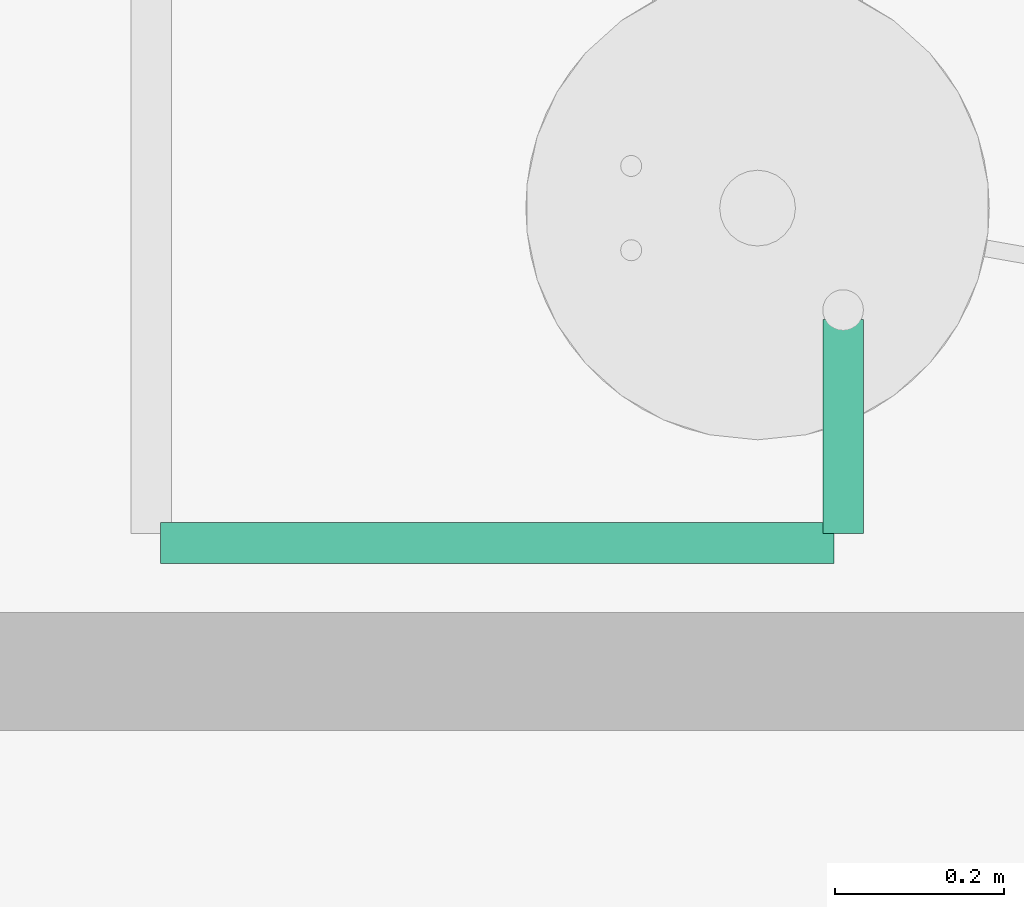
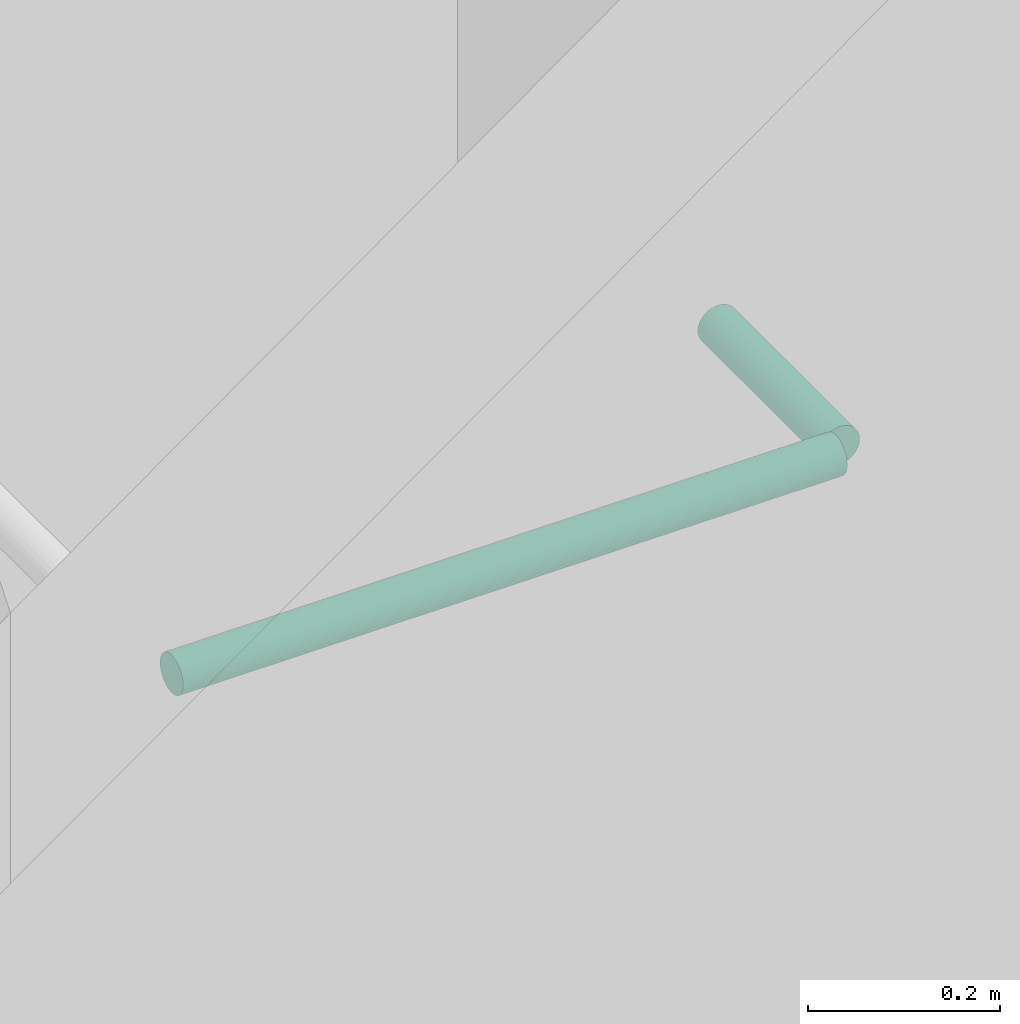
# One storey, part 43 of 71: 2 pipe segments.
"""IFC4 building model written with IfcOpenShell, lengths in centimetres."""

from ifc_helpers import new_model, entity, si_unit, converted_unit, derived_unit, direction, frame, origin, place, context, subcontext, project, spatial, arc, indexed_curve, outline, extrude, type_object, element, save


model = new_model("IFC4")

# Units and contexts
model_context = context("Model", 3, precision=0.001, world=origin(), true_north=direction((6.123233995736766e-17, 1.0)))
body_context = subcontext(model_context, "Body", "Model", "MODEL_VIEW")
ifc_project = project(units=[si_unit("LENGTHUNIT", "METRE", prefix="CENTI"), si_unit("AREAUNIT", "SQUARE_METRE"), si_unit("VOLUMEUNIT", "CUBIC_METRE"), derived_unit("THERMALTRANSMITTANCEUNIT", [(si_unit("MASSUNIT", "GRAM", prefix="KILO"), 1), (si_unit("THERMODYNAMICTEMPERATUREUNIT", "KELVIN"), -1), (si_unit("TIMEUNIT", "SECOND"), -3)]), converted_unit("PLANEANGLEUNIT", "DEGREE", entity("IfcPlaneAngleMeasure", 0.017453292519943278), si_unit("PLANEANGLEUNIT", "RADIAN"), dimensions=[0, 0, 0, 0, 0, 0, 0]), derived_unit("MASSDENSITYUNIT", [(si_unit("MASSUNIT", "GRAM", prefix="KILO"), 1), (si_unit("LENGTHUNIT", "METRE"), -3)]), derived_unit("VAPORPERMEABILITYUNIT", [(si_unit("LENGTHUNIT", "METRE"), -1), (si_unit("TIMEUNIT", "SECOND"), 1)]), derived_unit("USERDEFINED", [(si_unit("MASSUNIT", "GRAM", prefix="KILO"), 1), (si_unit("TIMEUNIT", "SECOND"), -3), (si_unit("LENGTHUNIT", "METRE"), 3), (si_unit("ELECTRICCURRENTUNIT", "AMPERE"), -2)]), derived_unit("SPECIFICHEATCAPACITYUNIT", [(si_unit("THERMODYNAMICTEMPERATUREUNIT", "KELVIN"), -1), (si_unit("LENGTHUNIT", "METRE"), 2), (si_unit("TIMEUNIT", "SECOND"), -2)]), derived_unit("THERMALCONDUCTANCEUNIT", [(si_unit("MASSUNIT", "GRAM", prefix="KILO"), 1), (si_unit("THERMODYNAMICTEMPERATUREUNIT", "KELVIN"), -1), (si_unit("TIMEUNIT", "SECOND"), -3), (si_unit("LENGTHUNIT", "METRE"), 1)]), si_unit("PRESSUREUNIT", "PASCAL"), derived_unit("MODULUSOFELASTICITYUNIT", [(si_unit("MASSUNIT", "GRAM", prefix="KILO"), 1), (si_unit("LENGTHUNIT", "METRE"), -1), (si_unit("TIMEUNIT", "SECOND"), -2)]), derived_unit("THERMALEXPANSIONCOEFFICIENTUNIT", [(si_unit("THERMODYNAMICTEMPERATUREUNIT", "KELVIN"), -1)])], contexts=[model_context])

# Site, building, storey
site_placement = place(None, origin())
site = spatial("IfcSite", under=ifc_project, at=site_placement, Name="Default", CompositionType="ELEMENT")
building_placement = place(site_placement, origin())
building = spatial("IfcBuilding", under=site, at=building_placement, Name="IDS Escape Game Building", CompositionType="ELEMENT")
storey_placement = place(building_placement, frame((0.0, 0.0, 1200.0)))
storey = spatial("IfcBuildingStorey", under=building, at=storey_placement, Name="03_Third Floor", CompositionType="ELEMENT", Elevation=1200.0)

# Pipe segments
pipe_segment_type = type_object("IfcPipeSegmentType", Name="Pipe Types:Piping Aluminum", PredefinedType="NOTDEFINED")
pipe_segment_1_placement = place(storey_placement, origin())
element("IfcPipeSegment", 1, at=pipe_segment_1_placement, inside=storey, type_object=pipe_segment_type, Name="Pipe Types:Piping Aluminum", ObjectType="Pipe Types:Piping Aluminum", PredefinedType="NOTDEFINED", context=body_context, shape_type="SweptSolid", body=[
    extrude(outline(indexed_curve([(2.4129999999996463, -2.165734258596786e-13), (1.7062486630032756, 1.7062486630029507), (4.331468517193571e-13, 2.4130000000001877), (-1.706248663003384, 1.706248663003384), (-2.413000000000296, -2.165734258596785e-13), (-1.706248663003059, -1.706248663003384), (4.3314685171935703e-13, -2.4129999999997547), (1.7062486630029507, -1.7062486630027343)], segments=[arc(1, 2, 3), arc(3, 4, 5), arc(5, 6, 7), arc(7, 8, 1)], self_intersect=False)), frame((2983.14671687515, 659.2648279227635, 242.0), z_axis=(1.0, 0.0, 0.0), x_axis=(0.0, 1.0, 0.0)), (0.0, 0.0, 1.0), 79.90328312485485),
])
pipe_segment_2_placement = place(storey_placement, origin())
element("IfcPipeSegment", 2, at=pipe_segment_2_placement, inside=storey, type_object=pipe_segment_type, Name="Pipe Types:Piping Aluminum", ObjectType="Pipe Types:Piping Aluminum", PredefinedType="NOTDEFINED", context=body_context, shape_type="SweptSolid", body=[
    extrude(outline(indexed_curve([(2.4129999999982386, 0.0), (1.706248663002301, 1.7062486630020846), (1.2994405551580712e-12, 2.412999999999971), (-1.7062486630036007, 1.7062486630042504), (-2.413000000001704, 0.0), (-1.7062486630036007, -1.7062486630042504), (1.2994405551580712e-12, -2.412999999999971), (1.706248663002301, -1.7062486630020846)], segments=[arc(1, 2, 3), arc(3, 4, 5), arc(5, 6, 7), arc(7, 8, 1)], self_intersect=False)), frame((3064.150000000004, 660.3648279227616, 242.0), z_axis=(0.0, 1.0, 0.0), x_axis=(-1.0, 0.0, 0.0)), (0.0, 0.0, 1.0), 25.43517207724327),
])

save(model, "model.ifc")
